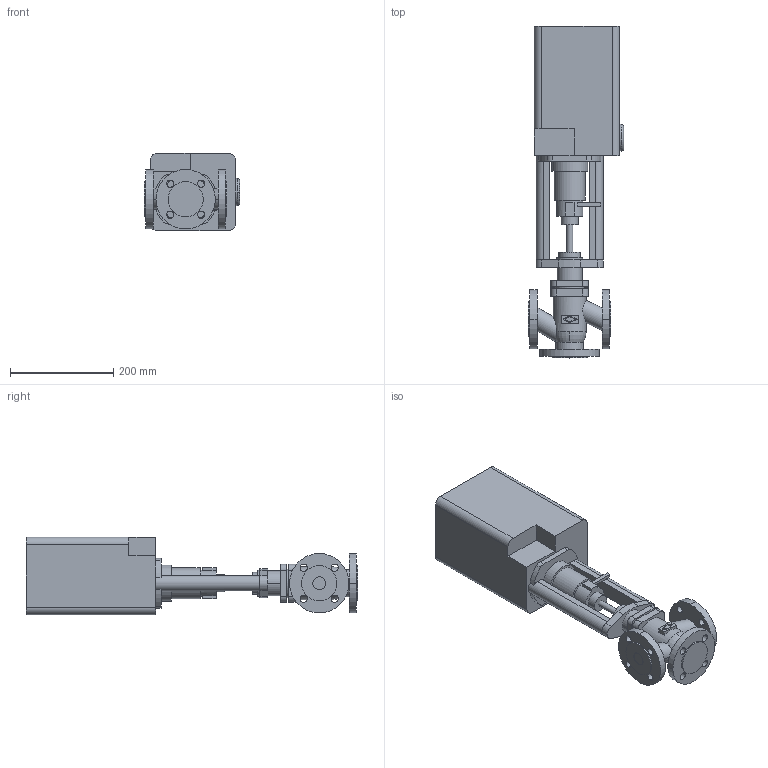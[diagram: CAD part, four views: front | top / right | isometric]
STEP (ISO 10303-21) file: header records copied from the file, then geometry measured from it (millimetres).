
FILE_DESCRIPTION(('OneSpaceDesigner STEP Export'),'2;1');
FILE_NAME('c000002377.stp','2006-09-19T11:51:23',(''),(''),'OneSpace Designer STEP processor for AP214 (Solid Model)','OneSpace Designer 13.20A 18-Aug-2005 (C) CoCreate Software GmbH','');
FILE_SCHEMA(('AUTOMOTIVE_DESIGN { 1 0 10303 214 1 1 1 1 }'));
Length unit declared in the file: millimetre
Products named in the file (2): 1; 2
Bounding box: 184.6 x 643 x 150 mm (x, y, z)
Volume: 7889781.4 mm3; surface area: 416490.4 mm2
Topology: 2 solids, 2 shells, 192 faces, 484 edges, 322 vertices
Faces by surface type: cylinder 94, plane 94, torus 4
Entity records: 5520 total; most frequent: CARTESIAN_POINT 1053, ORIENTED_EDGE 968, DIRECTION 849, EDGE_CURVE 484, VERTEX_POINT 322, AXIS2_PLACEMENT_3D 293, VECTOR 263, LINE 263
